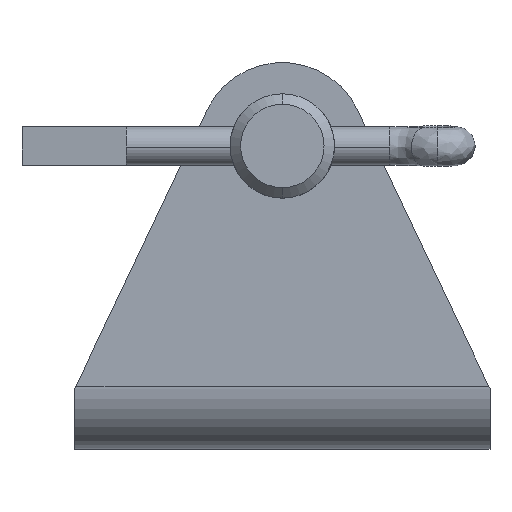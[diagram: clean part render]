
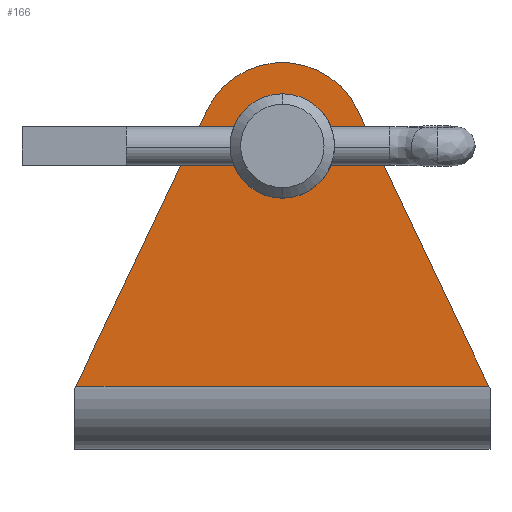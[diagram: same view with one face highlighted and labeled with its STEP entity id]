
A CAD part, top view. The second image highlights one B-rep face of the part: STEP entity #166.
In plain terms, the highlighted planar face has unit normal (0, 0, 1).
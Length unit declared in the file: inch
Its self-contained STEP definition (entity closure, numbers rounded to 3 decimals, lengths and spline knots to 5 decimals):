
#166=ADVANCED_FACE('NONE',(#354,#355),#356,.F.);
#354=FACE_OUTER_BOUND('',#704,.T.);
#355=FACE_BOUND('',#705,.T.);
#356=PLANE('',#706);
#704=EDGE_LOOP('',(#1453,#1454,#1455,#1456));
#705=EDGE_LOOP('',(#1457,#1458));
#706=AXIS2_PLACEMENT_3D('',#1459,#1460,#1461);
#1453=ORIENTED_EDGE('',*,*,#1897,.F.);
#1454=ORIENTED_EDGE('',*,*,#1837,.F.);
#1455=ORIENTED_EDGE('',*,*,#1898,.F.);
#1456=ORIENTED_EDGE('',*,*,#1899,.F.);
#1457=ORIENTED_EDGE('',*,*,#1900,.F.);
#1458=ORIENTED_EDGE('',*,*,#1901,.F.);
#1459=CARTESIAN_POINT('',(-0.6467,0.61405,2.11811));
#1460=DIRECTION('',(0.0,0.,-1.0));
#1461=DIRECTION('',(0.0,-1.0,0.));
#1837=EDGE_CURVE('NONE',#2111,#2103,#2113,.T.);
#1897=EDGE_CURVE('NONE',#2103,#2198,#2199,.T.);
#1898=EDGE_CURVE('NONE',#2200,#2111,#2201,.T.);
#1899=EDGE_CURVE('NONE',#2198,#2200,#2202,.T.);
#1900=EDGE_CURVE('NONE',#2203,#2204,#2205,.T.);
#1901=EDGE_CURVE('NONE',#2204,#2203,#2206,.T.);
#2103=VERTEX_POINT('NONE',#2553);
#2111=VERTEX_POINT('NONE',#2583);
#2113=LINE('',#2586,#2587);
#2198=VERTEX_POINT('NONE',#2692);
#2199=LINE('',#2693,#2694);
#2200=VERTEX_POINT('NONE',#2695);
#2201=CIRCLE('',#2696,0.31496);
#2202=LINE('',#2697,#2698);
#2203=VERTEX_POINT('NONE',#2699);
#2204=VERTEX_POINT('NONE',#2700);
#2205=CIRCLE('',#2701,0.19685);
#2206=CIRCLE('',#2702,0.19685);
#2553=CARTESIAN_POINT('',(-0.65153,-0.60643,2.11811));
#2583=CARTESIAN_POINT('',(-1.14565,0.43418,2.11811));
#2586=CARTESIAN_POINT('',(-1.14565,0.43418,2.11811));
#2587=VECTOR('',#3118,39.37008);
#2692=CARTESIAN_POINT('',(-2.2088,-0.60643,2.11811));
#2693=CARTESIAN_POINT('',(-0.6467,-0.60643,2.11811));
#2694=VECTOR('',#3211,39.37008);
#2695=CARTESIAN_POINT('',(-1.71468,0.43418,2.11811));
#2696=AXIS2_PLACEMENT_3D('',#3212,#3213,#3214);
#2697=CARTESIAN_POINT('',(-2.2088,-0.60643,2.11811));
#2698=VECTOR('',#3215,39.37008);
#2699=CARTESIAN_POINT('',(-1.23332,0.29909,2.11811));
#2700=CARTESIAN_POINT('',(-1.62702,0.29909,2.11811));
#2701=AXIS2_PLACEMENT_3D('',#3216,#3217,#3218);
#2702=AXIS2_PLACEMENT_3D('',#3219,#3220,#3221);
#3118=DIRECTION('',(0.429,-0.903,0.));
#3211=DIRECTION('',(-1.0,-0.0,-0.0));
#3212=CARTESIAN_POINT('',(-1.43017,0.29909,2.11811));
#3213=DIRECTION('',(0.0,0.0,-1.0));
#3214=DIRECTION('',(-1.0,0.0,0.0));
#3215=DIRECTION('',(0.429,0.903,0.));
#3216=CARTESIAN_POINT('',(-1.43017,0.29909,2.11811));
#3217=DIRECTION('',(0.0,0.0,1.0));
#3218=DIRECTION('',(1.0,0.0,0.0));
#3219=CARTESIAN_POINT('',(-1.43017,0.29909,2.11811));
#3220=DIRECTION('',(0.0,0.0,1.0));
#3221=DIRECTION('',(1.0,0.0,0.0));
